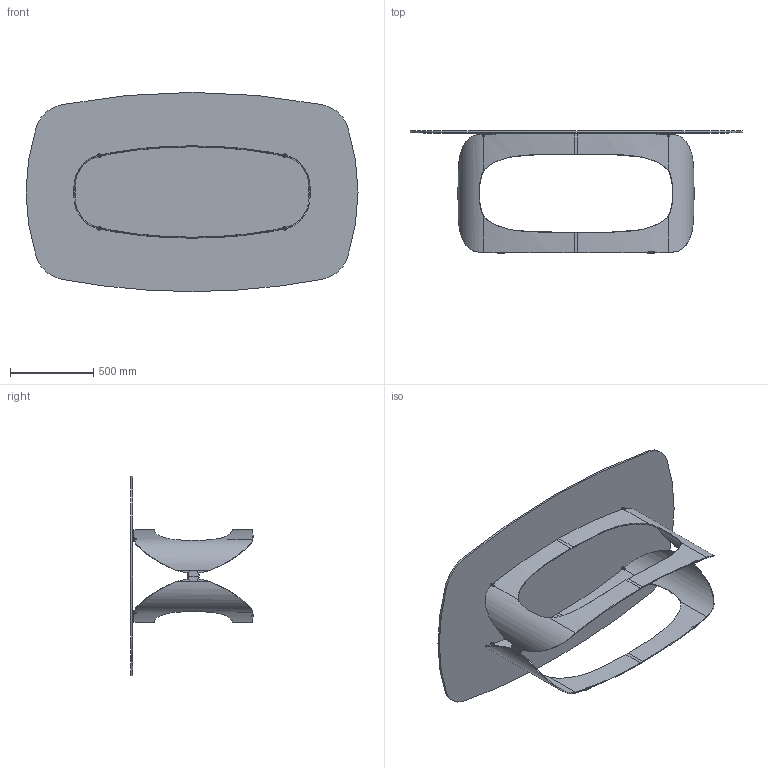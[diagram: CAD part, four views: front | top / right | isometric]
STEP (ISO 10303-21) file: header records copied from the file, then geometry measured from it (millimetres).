
FILE_DESCRIPTION (( 'STEP AP203' ), '1' );
FILE_NAME ('PO41G.STEP', '2024-08-06T14:05:18', ( '' ), ( '' ), 'SwSTEP 2.0', 'SolidWorks 2022', '' );
FILE_SCHEMA (( 'CONFIG_CONTROL_DESIGN' ));
Length unit declared in the file: millimetre
Products named in the file (11): PST0GR022-01-PIASTRA D22x22H mm+FILETTO M8 AVP-AVZ GREZZO; PVC profilo Polifemo 9x8; C4XCRXX-00-Piani Sagomati in Cristallo_2000x1200; POL000000_01-01-MEZZA BASE POLIFEMO X PIANI 200-240_POL000000_03-00-MEZZA BASE PLIFEMO L160; PVC Ø19x3; POL000000-00-POLIFEMO BASE X PIANI 200-240_POL000000-00-POLIFEMO BASE L160; POL000000_03B-00-POLIFEMO FREGIO; POL000000_03-01-POLIFEMO FREGIO COMPLETO; POL000000_03A-01-POLIFEMO FREGIO; PO41G; POL000000_02-02-CILINDRO DI FISSAGGIO Ø12X15 M8
Assembly tree (24 placements, depth 3):
  PO41G
    POL000000-00-POLIFEMO BASE X PIANI 200-240_POL000000-00-POLIFEMO BASE L160
      POL000000_01-01-MEZZA BASE POLIFEMO X PIANI 200-240_POL000000_03-00-MEZZA BASE PLIFEMO L160  x2
      POL000000_02-02-CILINDRO DI FISSAGGIO Ø12X15 M8  x4
    POL000000_03-01-POLIFEMO FREGIO COMPLETO  x2
      POL000000_03A-01-POLIFEMO FREGIO
      POL000000_03B-00-POLIFEMO FREGIO
    PST0GR022-01-PIASTRA D22x22H mm+FILETTO M8 AVP-AVZ GREZZO  x4
    PVC Ø19x3  x4
    PVC profilo Polifemo 9x8  x3
    C4XCRXX-00-Piani Sagomati in Cristallo_2000x1200
Bounding box: 2000 x 736.97 x 1200 mm (x, y, z)
Volume: 33228807.1 mm3; surface area: 6929379.2 mm2
Topology: 24 solids, 24 shells, 477 faces, 1183 edges, 760 vertices
Faces by surface type: cylinder 226, plane 151, bspline 80, cone 20
Entity records: 16791 total; most frequent: CARTESIAN_POINT 11202, ORIENTED_EDGE 910, DIRECTION 764, EDGE_CURVE 455, VERTEX_POINT 292, AXIS2_PLACEMENT_3D 291, EDGE_LOOP 187, LINE 182
